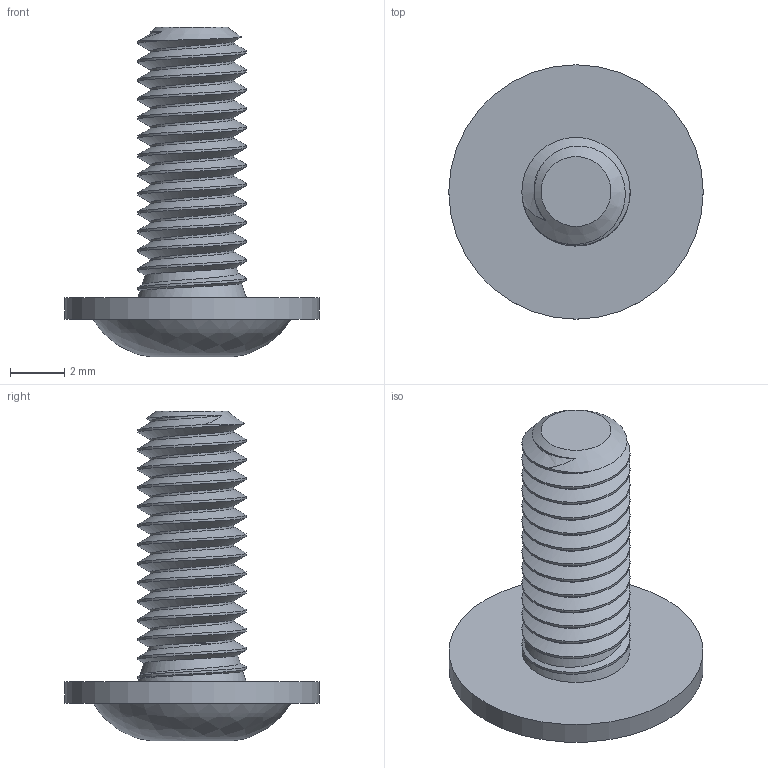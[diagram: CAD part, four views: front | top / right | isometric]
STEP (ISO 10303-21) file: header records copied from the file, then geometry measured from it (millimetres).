
FILE_DESCRIPTION((''),'2;1');
FILE_NAME('C:\Documents and Settings\Administrator\My Documents\Andys Backup Data\WEBSITE\DREAMWEAVER\MiniTec\Products\Screw_And_Nuts\Catalog_Pages\Button_Head_Flange\CAD\Step\21.9943 M4X10 BUTTON HEAD FLANGE.stp','2012-12-14T11:35:30',('Administrator'),(''),'Autodesk Inventor 2009','Autodesk Inventor 2009','');
FILE_SCHEMA(('AUTOMOTIVE_DESIGN { 1 0 10303 214 1 1 1 1 }'));
Length unit declared in the file: millimetre
Products named in the file (1): 21.9943 M4X10 BUTTON HEAD FLANGE
Bounding box: 9.4 x 9.4 x 12.19 mm (x, y, z)
Volume: 184.8 mm3; surface area: 370.6 mm2
Topology: 1 solids, 1 shells, 24 faces, 171 edges, 151 vertices
Faces by surface type: plane 10, cone 8, bspline 3, cylinder 3
Full cylindrical faces by diameter (mm): 9.4 x1
Entity records: 3108 total; most frequent: CARTESIAN_POINT 2129, ORIENTED_EDGE 332, EDGE_CURVE 166, VERTEX_POINT 149, DIRECTION 92, AXIS2_PLACEMENT_3D 40, EDGE_LOOP 29, B_SPLINE_CURVE_WITH_KNOTS 25
